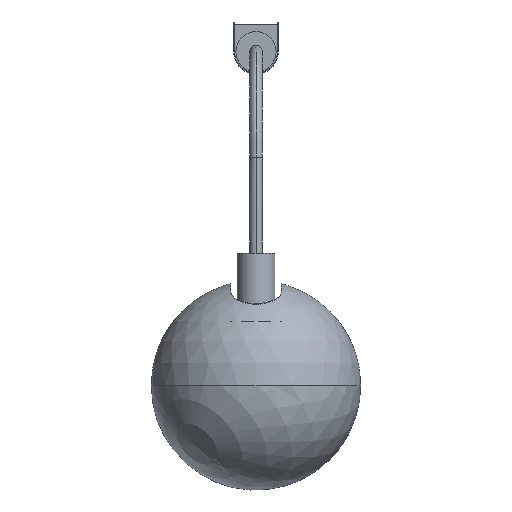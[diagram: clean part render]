
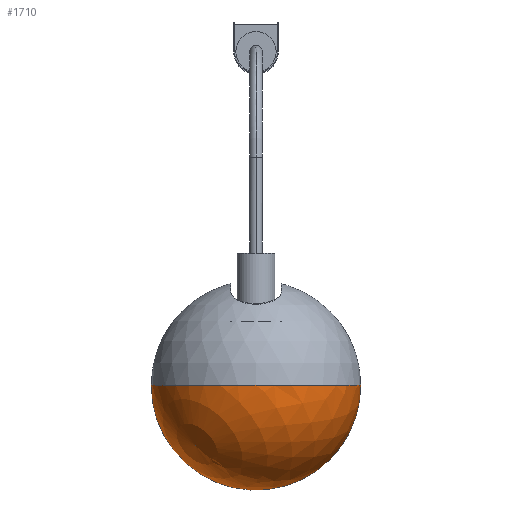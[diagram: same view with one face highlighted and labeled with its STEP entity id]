
A CAD part, front view. The second image highlights one B-rep face of the part: STEP entity #1710.
In plain terms, the highlighted spherical face has radius 124.9 mm.
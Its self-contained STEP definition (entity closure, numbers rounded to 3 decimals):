
#28=SPHERICAL_SURFACE('',#1877,124.9);
#460=FACE_OUTER_BOUND('',#576,.T.);
#576=EDGE_LOOP('',(#1397,#1398,#1399,#1400,#1401));
#710=CIRCLE('',#1867,124.9);
#713=CIRCLE('',#1870,124.9);
#716=CIRCLE('',#1876,124.9);
#717=CIRCLE('',#1878,124.9);
#827=VERTEX_POINT('',#3525);
#828=VERTEX_POINT('',#3530);
#830=VERTEX_POINT('',#3536);
#833=VERTEX_POINT('',#3550);
#1028=EDGE_CURVE('',#828,#830,#710,.T.);
#1031=EDGE_CURVE('',#830,#827,#713,.T.);
#1034=EDGE_CURVE('',#827,#828,#716,.F.);
#1035=EDGE_CURVE('',#830,#833,#717,.T.);
#1397=ORIENTED_EDGE('',*,*,#1034,.T.);
#1398=ORIENTED_EDGE('',*,*,#1028,.T.);
#1399=ORIENTED_EDGE('',*,*,#1035,.T.);
#1400=ORIENTED_EDGE('',*,*,#1035,.F.);
#1401=ORIENTED_EDGE('',*,*,#1031,.T.);
#1710=ADVANCED_FACE('',(#460),#28,.T.);
#1867=AXIS2_PLACEMENT_3D('',#3537,#2209,#2210);
#1870=AXIS2_PLACEMENT_3D('',#3541,#2215,#2216);
#1876=AXIS2_PLACEMENT_3D('',#3548,#2227,#2228);
#1877=AXIS2_PLACEMENT_3D('',#3549,#2229,#2230);
#1878=AXIS2_PLACEMENT_3D('',#3551,#2231,#2232);
#2209=DIRECTION('center_axis',(0.,-1.,0.));
#2210=DIRECTION('ref_axis',(0.,0.,-1.));
#2215=DIRECTION('center_axis',(0.,-1.,0.));
#2216=DIRECTION('ref_axis',(0.,0.,-1.));
#2227=DIRECTION('center_axis',(0.,0.,
1.));
#2228=DIRECTION('ref_axis',(1.,0.,0.));
#2229=DIRECTION('center_axis',(0.577,0.577,0.577));
#2230=DIRECTION('ref_axis',(-0.707,0.,0.707));
#2231=DIRECTION('center_axis',(-0.408,0.816,-0.408));
#2232=DIRECTION('ref_axis',(0.707,0.,-0.707));
#3525=CARTESIAN_POINT('',(124.9,-164.082,-402.3));
#3530=CARTESIAN_POINT('',(-124.9,-164.082,-402.3));
#3536=CARTESIAN_POINT('',(88.318,-164.082,-490.617));
#3537=CARTESIAN_POINT('Origin',(0.,-164.082,
-402.3));
#3541=CARTESIAN_POINT('Origin',(0.,-164.082,
-402.3));
#3548=CARTESIAN_POINT('Origin',(0.,-164.082,
-402.3));
#3549=CARTESIAN_POINT('Origin',(0.,-164.082,
-402.3));
#3550=CARTESIAN_POINT('',(-72.111,-236.193,-474.411));
#3551=CARTESIAN_POINT('Origin',(0.,-164.082,
-402.3));
